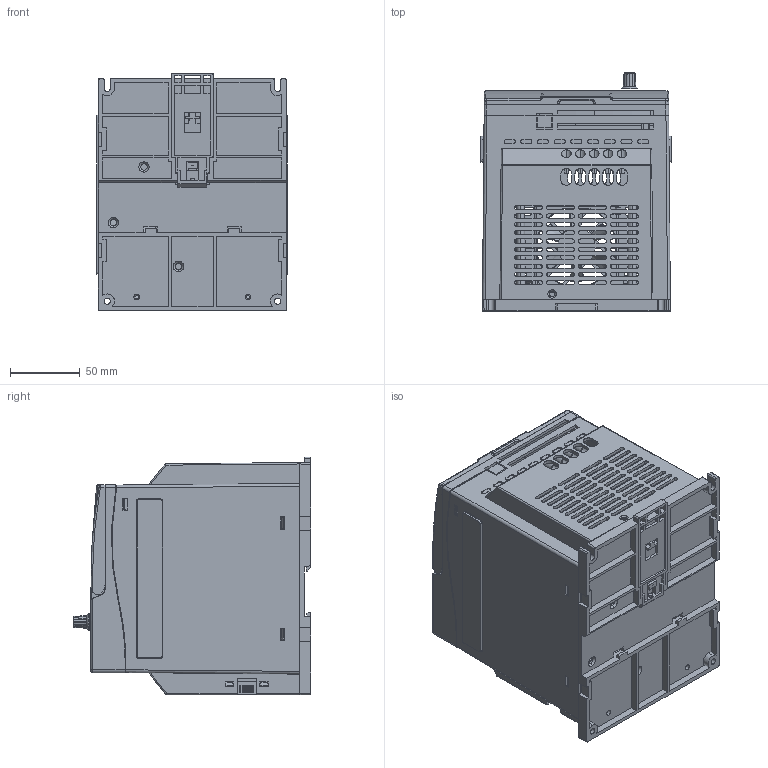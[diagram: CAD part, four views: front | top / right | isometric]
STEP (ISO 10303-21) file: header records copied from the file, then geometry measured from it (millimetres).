
FILE_DESCRIPTION (( 'STEP AP214' ), '1' );
FILE_NAME ('B-H2K2-220-0-Ò; B-H4K-380-0-Ò.STEP', '2022-06-04T08:31:23', ( '' ), ( '' ), 'SwSTEP 2.0', 'SolidWorks 2018', '' );
FILE_SCHEMA (( 'AUTOMOTIVE_DESIGN' ));
Length unit declared in the file: millimetre
Products named in the file (16): OptiCor B-H2K2-380-0-ﾒ-0; OptiCor B-H4K-380-0-ﾒ-0(2)^B-H2K2-220-0-ﾒ; B-H4K-380-0-ﾒ; CDI-D3R7-804___ _____________ _____________^OptiCor B-H2K2-380-0-ﾒ-0; OptiCor B-H4K-380-0-ﾒ-0(2)_B-H2K2-220-0-ﾒ; B-H4K-380-0-ﾒ; CDI-D3R7-803___ _____________ _____________^OptiCor B-H2K2-380-0-ﾒ-0; OptiCor B-H4K-380-0-ﾒ-0(2)_B-H2K2-220-0-ﾒ; B-H4K-380-0-ﾒ; CDI-D2R2-809_1___ _____________ _____________^OptiCor B-H2K2-380-0-ﾒ-0; OptiCor B-H4K-380-0-ﾒ-0(2)_B-H2K2-220-0-ﾒ; B-H4K-380-0-ﾒ; CDI-D3R7-802___ _____________ _____________^OptiCor B-H2K2-380-0-ﾒ-0; OptiCor B-H4K-380-0-ﾒ-0(2)_B-H2K2-220-0-ﾒ; B-H4K-380-0-ﾒ; CDI-D2R2-805_1___ _____________ _____________^OptiCor B-H2K2-380-0-ﾒ-0; OptiCor B-H4K-380-0-ﾒ-0(2)_B-H2K2-220-0-ﾒ; B-H4K-380-0-ﾒ; CDI-D3R7-801___ _____________ _____________^OptiCor B-H2K2-380-0-ﾒ-0; OptiCor B-H4K-380-0-ﾒ-0(2)_B-H2K2-220-0-ﾒ; B-H4K-380-0-ﾒ; CDI-D2R2-102_ASM_4^OptiCor B-H2K2-380-0-Ò-0; OptiCor B-H4K-380-0-Ò-0(2)_B-H2K2-220-0-Ò; B-H4K-380-0-Ò; CDI-D2R2-TM_4___ _____________ _____________^CDI-D2R2-102_ASM_4_OptiCor B-H2K2-380-0-Ò-0; OptiCor B-H4K-380-0-Ò-0(2)_B-H2K2-220-0-Ò; B-H4K-380-0-Ò; CDI-D2R2-811_5___ _____________ _____________^CDI-D2R2-102_ASM_4_OptiCor B-H2K2-380-0-Ò-0; OptiCor B-H4K-380-0-Ò-0(2)_B-H2K2-220-0-Ò; B-H4K-380-0-Ò; CDI-D2R2-807_4___ _____________ _____________^CDI-D2R2-102_ASM_4_OptiCor B-H2K2-380-0-Ò-0; OptiCor B-H4K-380-0-Ò-0(2)_B-H2K2-220-0-Ò; B-H4K-380-0-Ò; CDI-D2R2-806_4___ _____________ _____________^CDI-D2R2-102_ASM_4_OptiCor B-H2K2-380-0-Ò-0; OptiCor B-H4K-380-0-Ò-0(2)_B-H2K2-220-0-Ò; B-H4K-380-0-Ò; CDI-D3R7-808_ASM^OptiCor B-H2K2-380-0-Ò-0; OptiCor B-H4K-380-0-Ò-0(2)_B-H2K2-220-0-Ò; B-H4K-380-0-Ò; DC6015-02___ _____________ _____________^CDI-D3R7-808_ASM_OptiCor B-H2K2-380-0-Ò-0; OptiCor B-H4K-380-0-Ò-0(2)_B-H2K2-220-0-Ò; B-H4K-380-0-Ò; CDI-D3R7-808___ _____________ _____________^CDI-D3R7-808_ASM_OptiCor B-H2K2-380-0-Ò-0; OptiCor B-H4K-380-0-Ò-0(2)_B-H2K2-220-0-Ò; B-H4K-380-0-Ò; B-H2K2-220-0-ﾒ; B-H4K-380-0-ﾒ
Assembly tree (16 placements, depth 4):
  B-H2K2-220-0-ﾒ; B-H4K-380-0-ﾒ
    OptiCor B-H2K2-380-0-ﾒ-0; OptiCor B-H4K-380-0-ﾒ-0(2)^B-H2K2-220-0-ﾒ; B-H4K-380-0-ﾒ
      CDI-D3R7-808_ASM^OptiCor B-H2K2-380-0-Ò-0; OptiCor B-H4K-380-0-Ò-0(2)_B-H2K2-220-0-Ò; B-H4K-380-0-Ò
        CDI-D3R7-808___ _____________ _____________^CDI-D3R7-808_ASM_OptiCor B-H2K2-380-0-Ò-0; OptiCor B-H4K-380-0-Ò-0(2)_B-H2K2-220-0-Ò; B-H4K-380-0-Ò
        DC6015-02___ _____________ _____________^CDI-D3R7-808_ASM_OptiCor B-H2K2-380-0-Ò-0; OptiCor B-H4K-380-0-Ò-0(2)_B-H2K2-220-0-Ò; B-H4K-380-0-Ò
      CDI-D2R2-102_ASM_4^OptiCor B-H2K2-380-0-Ò-0; OptiCor B-H4K-380-0-Ò-0(2)_B-H2K2-220-0-Ò; B-H4K-380-0-Ò
        CDI-D2R2-806_4___ _____________ _____________^CDI-D2R2-102_ASM_4_OptiCor B-H2K2-380-0-Ò-0; OptiCor B-H4K-380-0-Ò-0(2)_B-H2K2-220-0-Ò; B-H4K-380-0-Ò
        CDI-D2R2-807_4___ _____________ _____________^CDI-D2R2-102_ASM_4_OptiCor B-H2K2-380-0-Ò-0; OptiCor B-H4K-380-0-Ò-0(2)_B-H2K2-220-0-Ò; B-H4K-380-0-Ò
        CDI-D2R2-811_5___ _____________ _____________^CDI-D2R2-102_ASM_4_OptiCor B-H2K2-380-0-Ò-0; OptiCor B-H4K-380-0-Ò-0(2)_B-H2K2-220-0-Ò; B-H4K-380-0-Ò
        CDI-D2R2-TM_4___ _____________ _____________^CDI-D2R2-102_ASM_4_OptiCor B-H2K2-380-0-Ò-0; OptiCor B-H4K-380-0-Ò-0(2)_B-H2K2-220-0-Ò; B-H4K-380-0-Ò
      CDI-D3R7-801___ _____________ _____________^OptiCor B-H2K2-380-0-ﾒ-0; OptiCor B-H4K-380-0-ﾒ-0(2)_B-H2K2-220-0-ﾒ; B-H4K-380-0-ﾒ
      CDI-D2R2-805_1___ _____________ _____________^OptiCor B-H2K2-380-0-ﾒ-0; OptiCor B-H4K-380-0-ﾒ-0(2)_B-H2K2-220-0-ﾒ; B-H4K-380-0-ﾒ
      CDI-D3R7-802___ _____________ _____________^OptiCor B-H2K2-380-0-ﾒ-0; OptiCor B-H4K-380-0-ﾒ-0(2)_B-H2K2-220-0-ﾒ; B-H4K-380-0-ﾒ
      CDI-D2R2-809_1___ _____________ _____________^OptiCor B-H2K2-380-0-ﾒ-0; OptiCor B-H4K-380-0-ﾒ-0(2)_B-H2K2-220-0-ﾒ; B-H4K-380-0-ﾒ  x2
      CDI-D3R7-803___ _____________ _____________^OptiCor B-H2K2-380-0-ﾒ-0; OptiCor B-H4K-380-0-ﾒ-0(2)_B-H2K2-220-0-ﾒ; B-H4K-380-0-ﾒ
      CDI-D3R7-804___ _____________ _____________^OptiCor B-H2K2-380-0-ﾒ-0; OptiCor B-H4K-380-0-ﾒ-0(2)_B-H2K2-220-0-ﾒ; B-H4K-380-0-ﾒ
Bounding box: 136.9 x 171 x 171 mm (x, y, z)
Volume: 409885.5 mm3; surface area: 390847.3 mm2
Topology: 13 solids, 13 shells, 3058 faces, 8442 edges, 5481 vertices
Faces by surface type: plane 1987, cylinder 804, bspline 189, cone 74, torus 4
Entity records: 102446 total; most frequent: CARTESIAN_POINT 26777, ORIENTED_EDGE 16508, DIRECTION 14356, EDGE_CURVE 8254, LINE 5972, VECTOR 5972, VERTEX_POINT 5393, AXIS2_PLACEMENT_3D 4192
